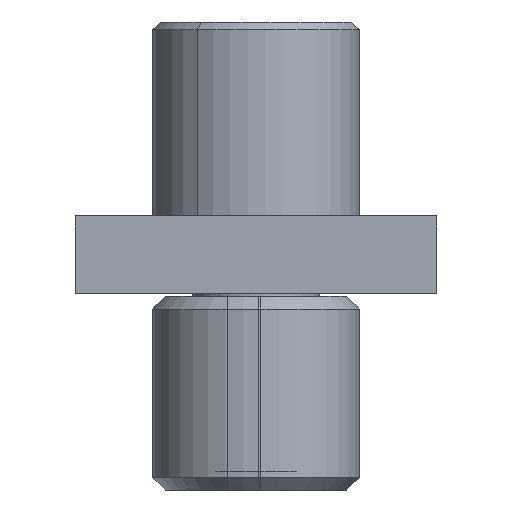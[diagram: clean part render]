
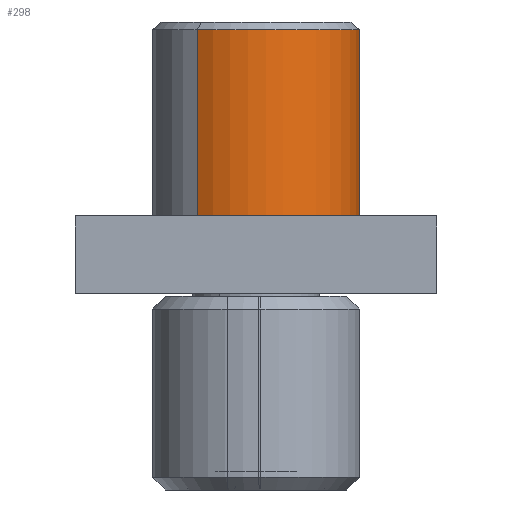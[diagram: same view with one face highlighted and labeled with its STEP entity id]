
A CAD part, left-side view. The second image highlights one B-rep face of the part: STEP entity #298.
In plain terms, the highlighted cylindrical face has radius 4 mm (diameter 8 mm), a partial arc.
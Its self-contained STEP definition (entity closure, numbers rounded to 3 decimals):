
#57 = EDGE_CURVE ( 'NONE', #1005, #325, #170, .T. ) ;
#70 = CIRCLE ( 'NONE', #1072, 4. ) ;
#170 = CIRCLE ( 'NONE', #876, 4. ) ;
#179 = ORIENTED_EDGE ( 'NONE', *, *, #830, .F. ) ;
#216 = DIRECTION ( 'NONE',  ( 0., 0., -1. ) ) ;
#241 = CARTESIAN_POINT ( 'NONE',  ( 0., 0., -0.3 ) ) ;
#246 = EDGE_CURVE ( 'NONE', #1170, #325, #1421, .T. ) ;
#298 = ADVANCED_FACE ( 'NONE', ( #339 ), #309, .T. ) ;
#309 = CYLINDRICAL_SURFACE ( 'NONE', #520, 4. ) ;
#325 = VERTEX_POINT ( 'NONE', #575 ) ;
#326 = DIRECTION ( 'NONE',  ( 0., 0., -1. ) ) ;
#331 = ORIENTED_EDGE ( 'NONE', *, *, #246, .T. ) ;
#339 = FACE_OUTER_BOUND ( 'NONE', #436, .T. ) ;
#354 = DIRECTION ( 'NONE',  ( 0., 1., 0. ) ) ;
#436 = EDGE_LOOP ( 'NONE', ( #179, #1366, #331, #961 ) ) ;
#443 = CARTESIAN_POINT ( 'NONE',  ( 0., 4., -18.1 ) ) ;
#520 = AXIS2_PLACEMENT_3D ( 'NONE', #1431, #1164, #1301 ) ;
#575 = CARTESIAN_POINT ( 'NONE',  ( 0., 4., -7.5 ) ) ;
#629 = CARTESIAN_POINT ( 'NONE',  ( 0., 4., -0.3 ) ) ;
#673 = CARTESIAN_POINT ( 'NONE',  ( 0., -4., -7.5 ) ) ;
#830 = EDGE_CURVE ( 'NONE', #1298, #1005, #1436, .T. ) ;
#876 = AXIS2_PLACEMENT_3D ( 'NONE', #1191, #216, #932 ) ;
#932 = DIRECTION ( 'NONE',  ( 0., 1., 0. ) ) ;
#961 = ORIENTED_EDGE ( 'NONE', *, *, #57, .F. ) ;
#1005 = VERTEX_POINT ( 'NONE', #673 ) ;
#1072 = AXIS2_PLACEMENT_3D ( 'NONE', #241, #1075, #354 ) ;
#1075 = DIRECTION ( 'NONE',  ( 0., 0., -1. ) ) ;
#1093 = CARTESIAN_POINT ( 'NONE',  ( 0., -4., -18.1 ) ) ;
#1118 = VECTOR ( 'NONE', #1214, 1000. ) ;
#1157 = EDGE_CURVE ( 'NONE', #1298, #1170, #70, .T. ) ;
#1164 = DIRECTION ( 'NONE',  ( 0., 0., -1. ) ) ;
#1170 = VERTEX_POINT ( 'NONE', #629 ) ;
#1191 = CARTESIAN_POINT ( 'NONE',  ( 0., 0., -7.5 ) ) ;
#1214 = DIRECTION ( 'NONE',  ( 0., 0., -1. ) ) ;
#1298 = VERTEX_POINT ( 'NONE', #1365 ) ;
#1301 = DIRECTION ( 'NONE',  ( 0., 1., 0. ) ) ;
#1365 = CARTESIAN_POINT ( 'NONE',  ( 0., -4., -0.3 ) ) ;
#1366 = ORIENTED_EDGE ( 'NONE', *, *, #1157, .T. ) ;
#1389 = VECTOR ( 'NONE', #326, 1000. ) ;
#1421 = LINE ( 'NONE', #443, #1389 ) ;
#1431 = CARTESIAN_POINT ( 'NONE',  ( 0., 0., -18.1 ) ) ;
#1436 = LINE ( 'NONE', #1093, #1118 ) ;
